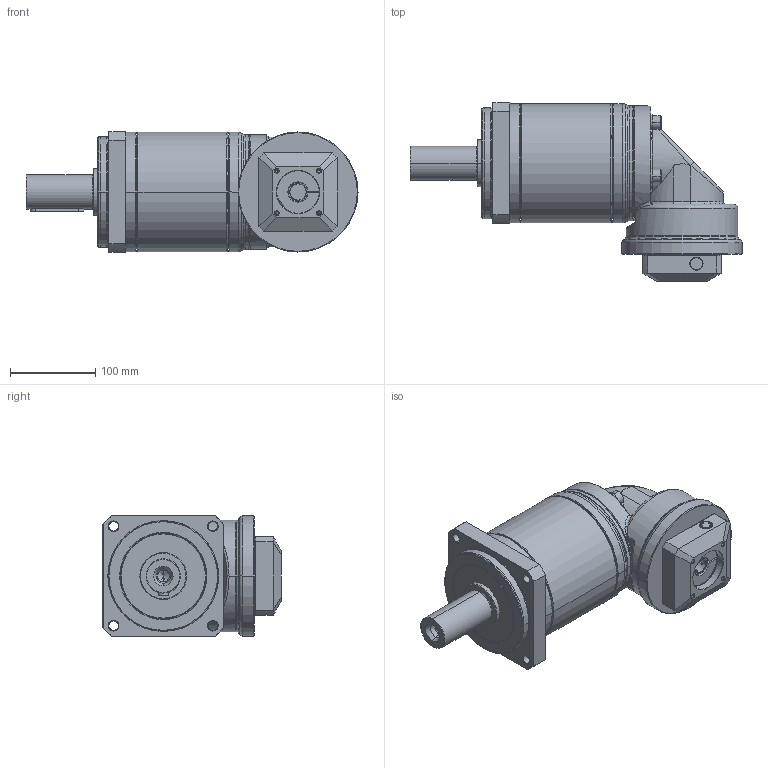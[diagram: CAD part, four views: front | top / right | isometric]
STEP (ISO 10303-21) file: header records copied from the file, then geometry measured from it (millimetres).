
FILE_DESCRIPTION((''),'2;1');
FILE_NAME('PA2R-142_2ST_19-P0411400101_ASM','2016-05-17T',('d01943'),(''),'PRO/ENGINEER BY PARAMETRIC TECHNOLOGY CORPORATION, 2008410','PRO/ENGINEER BY PARAMETRIC TECHNOLOGY CORPORATION, 2008410','');
FILE_SCHEMA(('CONFIG_CONTROL_DESIGN'));
Length unit declared in the file: millimetre
Products named in the file (12): P1327510001; P0251500001; P0350500601; P1349500001; P1017500001; P0713500001; P0503400008; P1350500001; P0411400101; P1702500001; 2111BA10040; PA2R-142_2ST_19-P0411400101_ASM
Assembly tree (14 placements, depth 2):
  PA2R-142_2ST_19-P0411400101_ASM
    P1327510001
    P0251500001
    P0350500601
    P1349500001
    P1017500001
    P0713500001
    P0503400008
    P1350500001
    P0411400101
    P1702500001
    2111BA10040  x4
Bounding box: 390 x 209.5 x 142 mm (x, y, z)
Volume: 2798362.8 mm3; surface area: 475402.3 mm2
Topology: 14 solids, 14 shells, 735 faces, 1619 edges, 935 vertices
Faces by surface type: cylinder 218, cone 212, plane 167, torus 106, bspline 32
Entity records: 23440 total; most frequent: CARTESIAN_POINT 9195, DIRECTION 3147, ORIENTED_EDGE 2766, EDGE_CURVE 1383, AXIS2_PLACEMENT_3D 1326, VERTEX_POINT 815, EDGE_LOOP 716, CIRCLE 696
